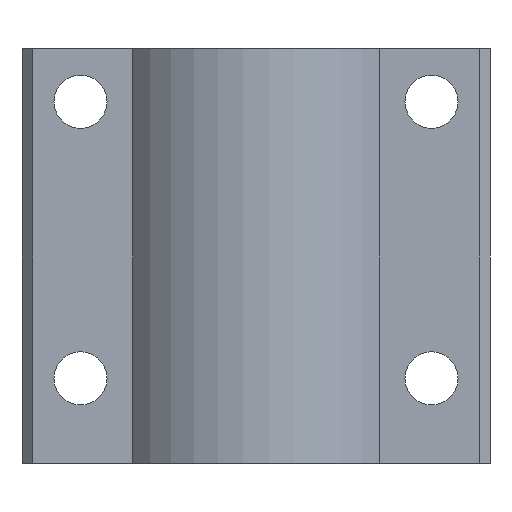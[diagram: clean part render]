
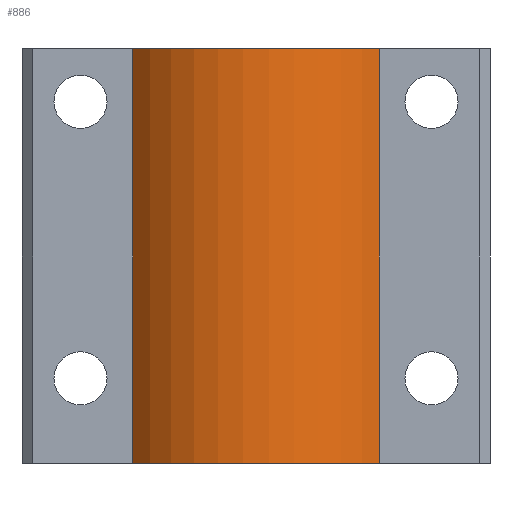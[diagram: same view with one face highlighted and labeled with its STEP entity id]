
A CAD part, front view. The second image highlights one B-rep face of the part: STEP entity #886.
In plain terms, the highlighted cylindrical face has radius 15 mm (diameter 30 mm), a partial arc.
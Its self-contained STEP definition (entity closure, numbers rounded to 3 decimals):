
#689=CARTESIAN_POINT('',(10.899,-5.302,-2.));
#690=VERTEX_POINT('',#689);
#697=CARTESIAN_POINT('',(-12.317,-5.302,-2.));
#698=VERTEX_POINT('',#697);
#699=CARTESIAN_POINT('',(-0.709,4.198,-2.));
#700=DIRECTION('',(0.0,0.0,1.0));
#701=DIRECTION('',(0.774,0.633,0.0));
#702=AXIS2_PLACEMENT_3D('',#699,#700,#701);
#703=CIRCLE('',#702,15.);
#704=EDGE_CURVE('',#698,#690,#703,.T.);
#835=CARTESIAN_POINT('',(10.899,-5.302,37.0));
#836=VERTEX_POINT('',#835);
#843=CARTESIAN_POINT('',(10.899,-5.302,37.0));
#844=DIRECTION('',(0.0,0.0,-1.0));
#845=VECTOR('',#844,39.0);
#846=LINE('',#843,#845);
#847=EDGE_CURVE('',#836,#690,#846,.T.);
#862=CARTESIAN_POINT('',(-0.709,4.198,17.5));
#863=DIRECTION('',(0.0,0.0,1.0));
#864=DIRECTION('',(0.774,0.633,0.0));
#865=AXIS2_PLACEMENT_3D('',#862,#863,#864);
#866=CYLINDRICAL_SURFACE('',#865,15.);
#867=CARTESIAN_POINT('',(-12.317,-5.302,37.0));
#868=VERTEX_POINT('',#867);
#869=CARTESIAN_POINT('',(-0.709,4.198,37.0));
#870=DIRECTION('',(0.0,0.0,-1.0));
#871=DIRECTION('',(0.774,0.633,0.0));
#872=AXIS2_PLACEMENT_3D('',#869,#870,#871);
#873=CIRCLE('',#872,15.);
#874=EDGE_CURVE('',#836,#868,#873,.T.);
#875=ORIENTED_EDGE('',*,*,#874,.T.);
#876=CARTESIAN_POINT('',(-12.317,-5.302,37.0));
#877=DIRECTION('',(0.0,0.0,-1.0));
#878=VECTOR('',#877,39.0);
#879=LINE('',#876,#878);
#880=EDGE_CURVE('',#868,#698,#879,.T.);
#881=ORIENTED_EDGE('',*,*,#880,.T.);
#882=ORIENTED_EDGE('',*,*,#704,.T.);
#883=ORIENTED_EDGE('',*,*,#847,.F.);
#884=EDGE_LOOP('',(#875,#881,#882,#883));
#885=FACE_OUTER_BOUND('',#884,.T.);
#886=ADVANCED_FACE('',(#885),#866,.T.);
